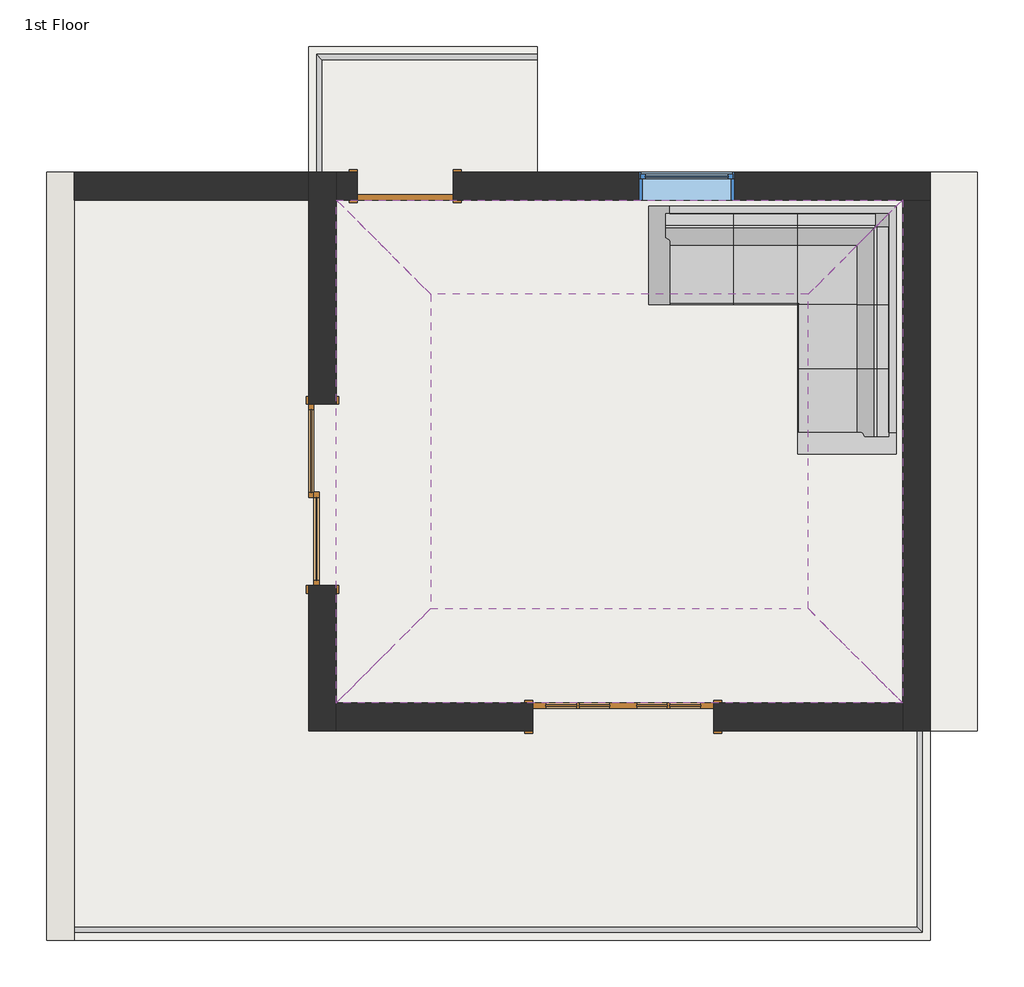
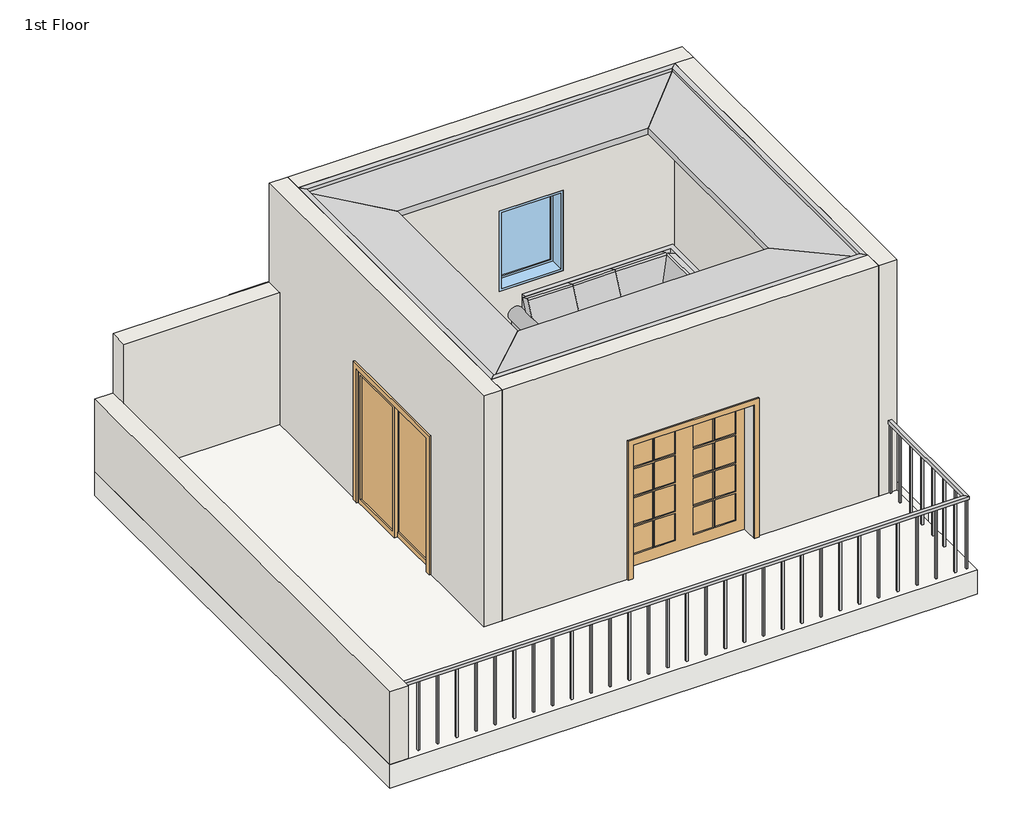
# One storey: 6 walls, 4 proxies, 3 doors, 2 railings, 2 slabs, 1 furniture element, 1 window.
"""IFC4 building model written with IfcOpenShell, lengths in millimetres."""

from ifc_helpers import new_model, si_unit, frame, origin, place, context, project, spatial, polyline, outline, extrude, faceted_brep, transform, mapped, element, save
from components import m_double_glass_2_1730_x_2032mm_0b333e25, m_single_flush_0915_x_2032mm_d69fe862, m_sliding_2_panel_1730_x_2032mm_289bf79d, corner_sofa_2406_corner_sofa_2406_fdd71140, m_fixed_0915_x_1220mm_db24ddbb

model = new_model("IFC4")

# Units and contexts
model_context = context("Model", 3, world=origin())
ifc_project = project(units=[si_unit("LENGTHUNIT", "METRE", prefix="MILLI")], contexts=[model_context])

# Site, building, storey
site = spatial("IfcSite", under=ifc_project)
building = spatial("IfcBuilding", under=site)
storey = spatial("IfcBuildingStorey", under=building, Name="1st Floor", Elevation=3000.0)

# Proxies
placement = place(None, origin())
element("IfcBuildingElementProxy", 1, Name="Wall Sweeps", at=placement, inside=storey, context=model_context, shape_type="Brep", body=[
    faceted_brep([(-4848.164818, -4853.3309608, 6500.0), (-4848.164818, -4853.3309608, 5750.0), (-4746.564818, -4751.7309608, 5750.0), (-4746.564818, -4751.7309608, 5800.8), (-4771.964818, -4777.1309608, 5800.8), (-4771.964818, -4777.1309608, 6054.8), (-4746.564818, -4751.7309608, 6054.8), (-4746.564818, -4751.7309608, 6105.6), (-4354.564818, -4359.7309608, 6246.0), (-4303.764818, -4308.9309608, 6246.0), (-4303.764818, -4308.9309608, 6271.4), (-4075.164818, -4080.3309608, 6271.4), (-4075.164818, -4080.3309608, 6296.8), (-3951.339818, -3956.5059608, 6296.8), (-3951.339818, -3956.5059608, 6283.2739674), (-3948.164818, -3953.3309608, 6283.2739674), (-3948.164818, -3953.3309608, 6373.0), (-4771.964818, -4777.1309608, 6449.2), (-4771.964818, -4777.1309608, 6500.0), (-4848.164818, -53.3309608, 6500.0), (-4771.964818, -129.5309608, 6500.0), (-4771.964818, -129.5309608, 6449.2), (-3948.164818, -953.3309608, 6373.0), (-3948.164818, -953.3309608, 6283.2739674), (-3951.339818, -950.1559608, 6283.2739674), (-3951.339818, -950.1559608, 6296.8), (-4075.164818, -826.3309608, 6296.8), (-4075.164818, -826.3309608, 6271.4), (-4303.764818, -597.7309608, 6271.4), (-4303.764818, -597.7309608, 6246.0), (-4354.564818, -546.9309608, 6246.0), (-4746.564818, -154.9309608, 6105.6), (-4746.564818, -154.9309608, 6054.8), (-4771.964818, -129.5309608, 6054.8), (-4771.964818, -129.5309608, 5800.8), (-4746.564818, -154.9309608, 5800.8), (-4746.564818, -154.9309608, 5750.0), (-4848.164818, -53.3309608, 5750.0)], [[[0, 1, 2, 3, 4, 5, 6, 7, 8, 9, 10, 11, 12, 13, 14, 15, 16, 17, 18]], [[19, 20, 21, 22, 23, 24, 25, 26, 27, 28, 29, 30, 31, 32, 33, 34, 35, 36, 37]], [[0, 18, 20, 19]], [[18, 17, 21, 20]], [[17, 16, 22, 21]], [[16, 15, 23, 22]], [[15, 14, 24, 23]], [[14, 13, 25, 24]], [[13, 12, 26, 25]], [[12, 11, 27, 26]], [[11, 10, 28, 27]], [[10, 9, 29, 28]], [[9, 8, 30, 29]], [[8, 7, 31, 30]], [[7, 6, 32, 31]], [[6, 5, 33, 32]], [[5, 4, 34, 33]], [[4, 3, 35, 34]], [[3, 2, 36, 35]], [[2, 1, 37, 36]], [[1, 0, 19, 37]]]),
])
element("IfcBuildingElementProxy", 2, Name="Wall Sweeps", at=placement, inside=storey, context=model_context, shape_type="Brep", body=[
    faceted_brep([(-4848.164818, -53.3309608, 6500.0), (-4848.164818, -53.3309608, 5750.0), (-4746.564818, -154.9309608, 5750.0), (-4746.564818, -154.9309608, 5800.8), (-4771.964818, -129.5309608, 5800.8), (-4771.964818, -129.5309608, 6054.8), (-4746.564818, -154.9309608, 6054.8), (-4746.564818, -154.9309608, 6105.6), (-4354.564818, -546.9309608, 6246.0), (-4303.764818, -597.7309608, 6246.0), (-4303.764818, -597.7309608, 6271.4), (-4075.164818, -826.3309608, 6271.4), (-4075.164818, -826.3309608, 6296.8), (-3951.339818, -950.1559608, 6296.8), (-3951.339818, -950.1559608, 6283.2739674), (-3948.164818, -953.3309608, 6283.2739674), (-3948.164818, -953.3309608, 6373.0), (-4771.964818, -129.5309608, 6449.2), (-4771.964818, -129.5309608, 6500.0), (551.835182, -53.3309608, 6500.0), (475.635182, -129.5309608, 6500.0), (475.635182, -129.5309608, 6449.2), (-348.164818, -953.3309608, 6373.0), (-348.164818, -953.3309608, 6283.2739674), (-344.989818, -950.1559608, 6283.2739674), (-344.989818, -950.1559608, 6296.8), (-221.164818, -826.3309608, 6296.8), (-221.164818, -826.3309608, 6271.4), (7.435182, -597.7309608, 6271.4), (7.435182, -597.7309608, 6246.0), (58.235182, -546.9309608, 6246.0), (450.235182, -154.9309608, 6105.6), (450.235182, -154.9309608, 6054.8), (475.635182, -129.5309608, 6054.8), (475.635182, -129.5309608, 5800.8), (450.235182, -154.9309608, 5800.8), (450.235182, -154.9309608, 5750.0), (551.835182, -53.3309608, 5750.0)], [[[0, 1, 2, 3, 4, 5, 6, 7, 8, 9, 10, 11, 12, 13, 14, 15, 16, 17, 18]], [[19, 20, 21, 22, 23, 24, 25, 26, 27, 28, 29, 30, 31, 32, 33, 34, 35, 36, 37]], [[1, 0, 19, 37]], [[2, 1, 37, 36]], [[3, 2, 36, 35]], [[4, 3, 35, 34]], [[5, 4, 34, 33]], [[6, 5, 33, 32]], [[7, 6, 32, 31]], [[8, 7, 31, 30]], [[9, 8, 30, 29]], [[10, 9, 29, 28]], [[11, 10, 28, 27]], [[12, 11, 27, 26]], [[13, 12, 26, 25]], [[14, 13, 25, 24]], [[15, 14, 24, 23]], [[16, 15, 23, 22]], [[17, 16, 22, 21]], [[18, 17, 21, 20]], [[0, 18, 20, 19]]]),
])
element("IfcBuildingElementProxy", 3, Name="Wall Sweeps", at=placement, inside=storey, context=model_context, shape_type="Brep", body=[
    faceted_brep([(551.835182, -53.3309608, 6500.0), (551.835182, -53.3309608, 5750.0), (450.235182, -154.9309608, 5750.0), (450.235182, -154.9309608, 5800.8), (475.635182, -129.5309608, 5800.8), (475.635182, -129.5309608, 6054.8), (450.235182, -154.9309608, 6054.8), (450.235182, -154.9309608, 6105.6), (58.235182, -546.9309608, 6246.0), (7.435182, -597.7309608, 6246.0), (7.435182, -597.7309608, 6271.4), (-221.164818, -826.3309608, 6271.4), (-221.164818, -826.3309608, 6296.8), (-344.989818, -950.1559608, 6296.8), (-344.989818, -950.1559608, 6283.2739674), (-348.164818, -953.3309608, 6283.2739674), (-348.164818, -953.3309608, 6373.0), (475.635182, -129.5309608, 6449.2), (475.635182, -129.5309608, 6500.0), (551.835182, -4853.3309608, 6500.0), (475.635182, -4777.1309608, 6500.0), (475.635182, -4777.1309608, 6449.2), (-348.164818, -3953.3309608, 6373.0), (-348.164818, -3953.3309608, 6283.2739674), (-344.989818, -3956.5059608, 6283.2739674), (-344.989818, -3956.5059608, 6296.8), (-221.164818, -4080.3309608, 6296.8), (-221.164818, -4080.3309608, 6271.4), (7.435182, -4308.9309608, 6271.4), (7.435182, -4308.9309608, 6246.0), (58.235182, -4359.7309608, 6246.0), (450.235182, -4751.7309608, 6105.6), (450.235182, -4751.7309608, 6054.8), (475.635182, -4777.1309608, 6054.8), (475.635182, -4777.1309608, 5800.8), (450.235182, -4751.7309608, 5800.8), (450.235182, -4751.7309608, 5750.0), (551.835182, -4853.3309608, 5750.0)], [[[0, 1, 2, 3, 4, 5, 6, 7, 8, 9, 10, 11, 12, 13, 14, 15, 16, 17, 18]], [[19, 20, 21, 22, 23, 24, 25, 26, 27, 28, 29, 30, 31, 32, 33, 34, 35, 36, 37]], [[1, 0, 19, 37]], [[2, 1, 37, 36]], [[3, 2, 36, 35]], [[4, 3, 35, 34]], [[5, 4, 34, 33]], [[6, 5, 33, 32]], [[7, 6, 32, 31]], [[8, 7, 31, 30]], [[9, 8, 30, 29]], [[10, 9, 29, 28]], [[11, 10, 28, 27]], [[12, 11, 27, 26]], [[13, 12, 26, 25]], [[14, 13, 25, 24]], [[15, 14, 24, 23]], [[16, 15, 23, 22]], [[17, 16, 22, 21]], [[18, 17, 21, 20]], [[0, 18, 20, 19]]]),
])
element("IfcBuildingElementProxy", 4, Name="Wall Sweeps", at=placement, inside=storey, context=model_context, shape_type="Brep", body=[
    faceted_brep([(551.835182, -4853.3309608, 6500.0), (551.835182, -4853.3309608, 5750.0), (450.235182, -4751.7309608, 5750.0), (450.235182, -4751.7309608, 5800.8), (475.635182, -4777.1309608, 5800.8), (475.635182, -4777.1309608, 6054.8), (450.235182, -4751.7309608, 6054.8), (450.235182, -4751.7309608, 6105.6), (58.235182, -4359.7309608, 6246.0), (7.435182, -4308.9309608, 6246.0), (7.435182, -4308.9309608, 6271.4), (-221.164818, -4080.3309608, 6271.4), (-221.164818, -4080.3309608, 6296.8), (-344.989818, -3956.5059608, 6296.8), (-344.989818, -3956.5059608, 6283.2739674), (-348.164818, -3953.3309608, 6283.2739674), (-348.164818, -3953.3309608, 6373.0), (475.635182, -4777.1309608, 6449.2), (475.635182, -4777.1309608, 6500.0), (-4848.164818, -4853.3309608, 6500.0), (-4771.964818, -4777.1309608, 6500.0), (-4771.964818, -4777.1309608, 6449.2), (-3948.164818, -3953.3309608, 6373.0), (-3948.164818, -3953.3309608, 6283.2739674), (-3951.339818, -3956.5059608, 6283.2739674), (-3951.339818, -3956.5059608, 6296.8), (-4075.164818, -4080.3309608, 6296.8), (-4075.164818, -4080.3309608, 6271.4), (-4303.764818, -4308.9309608, 6271.4), (-4303.764818, -4308.9309608, 6246.0), (-4354.564818, -4359.7309608, 6246.0), (-4746.564818, -4751.7309608, 6105.6), (-4746.564818, -4751.7309608, 6054.8), (-4771.964818, -4777.1309608, 6054.8), (-4771.964818, -4777.1309608, 5800.8), (-4746.564818, -4751.7309608, 5800.8), (-4746.564818, -4751.7309608, 5750.0), (-4848.164818, -4853.3309608, 5750.0)], [[[0, 1, 2, 3, 4, 5, 6, 7, 8, 9, 10, 11, 12, 13, 14, 15, 16, 17, 18]], [[19, 20, 21, 22, 23, 24, 25, 26, 27, 28, 29, 30, 31, 32, 33, 34, 35, 36, 37]], [[1, 0, 19, 37]], [[2, 1, 37, 36]], [[3, 2, 36, 35]], [[4, 3, 35, 34]], [[5, 4, 34, 33]], [[6, 5, 33, 32]], [[7, 6, 32, 31]], [[8, 7, 31, 30]], [[9, 8, 30, 29]], [[10, 9, 29, 28]], [[11, 10, 28, 27]], [[12, 11, 27, 26]], [[13, 12, 26, 25]], [[14, 13, 25, 24]], [[15, 14, 24, 23]], [[16, 15, 23, 22]], [[17, 16, 22, 21]], [[18, 17, 21, 20]], [[0, 18, 20, 19]]]),
])

# Doors
m_double_glass_2_1730_x_2032mm_shape = m_double_glass_2_1730_x_2032mm_0b333e25(model_context)
element("IfcDoor", 5, ObjectType="M_Double-Glass 2 : 1730 x 2032mm", at=placement, inside=storey, context=model_context, shape_type="MappedRepresentation", body=[
    mapped(m_double_glass_2_1730_x_2032mm_shape, transform((-2112.164818, -4985.3309608, 3000.0), x_axis=(1.0, 0.0, 0.0), y_axis=(0.0, 1.0, 0.0), z_axis=(0.0, 0.0, 1.0))),
])
m_single_flush_0915_x_2032mm_shape = m_single_flush_0915_x_2032mm_d69fe862(model_context)
element("IfcDoor", 6, ObjectType="M_Single-Flush : 0915 x 2032mm", at=placement, inside=storey, context=model_context, shape_type="MappedRepresentation", body=[
    mapped(m_single_flush_0915_x_2032mm_shape, transform((-4190.664818, 78.6690392, 3000.0), x_axis=(-1.0, 0.0, 0.0), y_axis=(0.0, -1.0, 0.0), z_axis=(0.0, 0.0, 1.0))),
])
m_sliding_2_panel_1730_x_2032mm_shape = m_sliding_2_panel_1730_x_2032mm_289bf79d(model_context)
element("IfcDoor", 7, ObjectType="M_Sliding-2 Panel : 1730 x 2032mm", at=placement, inside=storey, context=model_context, shape_type="MappedRepresentation", body=[
    mapped(m_sliding_2_panel_1730_x_2032mm_shape, transform((-4853.164818, -2867.3309608, 3000.0), x_axis=(0.0, -1.0, 0.0), y_axis=(1.0, 0.0, 0.0), z_axis=(0.0, 0.0, 1.0))),
])

# Furniture
corner_sofa_2406_corner_sofa_2406_shape = corner_sofa_2406_corner_sofa_2406_fdd71140(model_context)
element("IfcFurniture", 8, ObjectType="Corner_Sofa_2406 : Corner_Sofa_2406", at=placement, inside=storey, context=model_context, shape_type="MappedRepresentation", body=[
    mapped(corner_sofa_2406_corner_sofa_2406_shape, transform((-588.164818, -113.3309608, 3000.0), x_axis=(1.0, 0.0, 0.0), y_axis=(0.0, 1.0, 0.0), z_axis=(0.0, 0.0, 1.0))),
])

# Railings
element("IfcRailing", 9, ObjectType="1100mm", at=placement, inside=storey, context=model_context, shape_type="SolidModel", body=[
    faceted_brep([(-7420.164818, -6992.3309608, 4100.0), (-7420.164818, -6992.3309608, 4050.0), (-7420.164818, -7042.3309608, 4050.0), (-7420.164818, -7042.3309608, 4100.0), (690.835182, -6992.3309608, 4100.0), (690.835182, -6992.3309608, 4050.0), (740.835182, -7042.3309608, 4050.0), (740.835182, -7042.3309608, 4100.0), (690.835182, -5117.3309608, 4100.0), (740.835182, -5117.3309608, 4100.0), (740.835182, -5117.3309608, 4050.0), (690.835182, -5117.3309608, 4050.0)], [[[0, 1, 2, 3]], [[1, 0, 4, 5]], [[2, 1, 5, 6]], [[3, 2, 6, 7]], [[0, 3, 7, 4]], [[8, 9, 10, 11]], [[5, 4, 8, 11]], [[6, 5, 11, 10]], [[7, 6, 10, 9]], [[4, 7, 9, 8]]]),
    extrude(outline(polyline([(728.335182, -5379.8309608), (703.335182, -5379.8309608), (703.335182, -5354.8309608), (728.335182, -5354.8309608), (728.335182, -5379.8309608)])), frame((0.0, 0.0, 3000.0), z_axis=(0.0, 0.0, 1.0), x_axis=(1.0, 0.0, 0.0)), (0.0, 0.0, 1.0), 1050.0),
    extrude(outline(polyline([(728.335182, -5654.8309608), (703.335182, -5654.8309608), (703.335182, -5629.8309608), (728.335182, -5629.8309608), (728.335182, -5654.8309608)])), frame((0.0, 0.0, 3000.0), z_axis=(0.0, 0.0, 1.0), x_axis=(1.0, 0.0, 0.0)), (0.0, 0.0, 1.0), 1050.0),
    extrude(outline(polyline([(728.335182, -5929.8309608), (703.335182, -5929.8309608), (703.335182, -5904.8309608), (728.335182, -5904.8309608), (728.335182, -5929.8309608)])), frame((0.0, 0.0, 3000.0), z_axis=(0.0, 0.0, 1.0), x_axis=(1.0, 0.0, 0.0)), (0.0, 0.0, 1.0), 1050.0),
    extrude(outline(polyline([(728.335182, -6204.8309608), (703.335182, -6204.8309608), (703.335182, -6179.8309608), (728.335182, -6179.8309608), (728.335182, -6204.8309608)])), frame((0.0, 0.0, 3000.0), z_axis=(0.0, 0.0, 1.0), x_axis=(1.0, 0.0, 0.0)), (0.0, 0.0, 1.0), 1050.0),
    extrude(outline(polyline([(728.335182, -6479.8309608), (703.335182, -6479.8309608), (703.335182, -6454.8309608), (728.335182, -6454.8309608), (728.335182, -6479.8309608)])), frame((0.0, 0.0, 3000.0), z_axis=(0.0, 0.0, 1.0), x_axis=(1.0, 0.0, 0.0)), (0.0, 0.0, 1.0), 1050.0),
    extrude(outline(polyline([(728.335182, -6754.8309608), (703.335182, -6754.8309608), (703.335182, -6729.8309608), (728.335182, -6729.8309608), (728.335182, -6754.8309608)])), frame((0.0, 0.0, 3000.0), z_axis=(0.0, 0.0, 1.0), x_axis=(1.0, 0.0, 0.0)), (0.0, 0.0, 1.0), 1050.0),
    extrude(outline(polyline([(542.335182, -7029.8309608), (542.335182, -7004.8309608), (567.335182, -7004.8309608), (567.335182, -7029.8309608), (542.335182, -7029.8309608)])), frame((0.0, 0.0, 3000.0), z_axis=(0.0, 0.0, 1.0), x_axis=(1.0, 0.0, 0.0)), (0.0, 0.0, 1.0), 1050.0),
    extrude(outline(polyline([(267.335182, -7029.8309608), (267.335182, -7004.8309608), (292.335182, -7004.8309608), (292.335182, -7029.8309608), (267.335182, -7029.8309608)])), frame((0.0, 0.0, 3000.0), z_axis=(0.0, 0.0, 1.0), x_axis=(1.0, 0.0, 0.0)), (0.0, 0.0, 1.0), 1050.0),
    extrude(outline(polyline([(-7.664818, -7029.8309608), (-7.664818, -7004.8309608), (17.335182, -7004.8309608), (17.335182, -7029.8309608), (-7.664818, -7029.8309608)])), frame((0.0, 0.0, 3000.0), z_axis=(0.0, 0.0, 1.0), x_axis=(1.0, 0.0, 0.0)), (0.0, 0.0, 1.0), 1050.0),
    extrude(outline(polyline([(-282.664818, -7029.8309608), (-282.664818, -7004.8309608), (-257.664818, -7004.8309608), (-257.664818, -7029.8309608), (-282.664818, -7029.8309608)])), frame((0.0, 0.0, 3000.0), z_axis=(0.0, 0.0, 1.0), x_axis=(1.0, 0.0, 0.0)), (0.0, 0.0, 1.0), 1050.0),
    extrude(outline(polyline([(-557.664818, -7029.8309608), (-557.664818, -7004.8309608), (-532.664818, -7004.8309608), (-532.664818, -7029.8309608), (-557.664818, -7029.8309608)])), frame((0.0, 0.0, 3000.0), z_axis=(0.0, 0.0, 1.0), x_axis=(1.0, 0.0, 0.0)), (0.0, 0.0, 1.0), 1050.0),
    extrude(outline(polyline([(-832.664818, -7029.8309608), (-832.664818, -7004.8309608), (-807.664818, -7004.8309608), (-807.664818, -7029.8309608), (-832.664818, -7029.8309608)])), frame((0.0, 0.0, 3000.0), z_axis=(0.0, 0.0, 1.0), x_axis=(1.0, 0.0, 0.0)), (0.0, 0.0, 1.0), 1050.0),
    extrude(outline(polyline([(-1107.664818, -7029.8309608), (-1107.664818, -7004.8309608), (-1082.664818, -7004.8309608), (-1082.664818, -7029.8309608), (-1107.664818, -7029.8309608)])), frame((0.0, 0.0, 3000.0), z_axis=(0.0, 0.0, 1.0), x_axis=(1.0, 0.0, 0.0)), (0.0, 0.0, 1.0), 1050.0),
    extrude(outline(polyline([(-1382.664818, -7029.8309608), (-1382.664818, -7004.8309608), (-1357.664818, -7004.8309608), (-1357.664818, -7029.8309608), (-1382.664818, -7029.8309608)])), frame((0.0, 0.0, 3000.0), z_axis=(0.0, 0.0, 1.0), x_axis=(1.0, 0.0, 0.0)), (0.0, 0.0, 1.0), 1050.0),
    extrude(outline(polyline([(-1657.664818, -7029.8309608), (-1657.664818, -7004.8309608), (-1632.664818, -7004.8309608), (-1632.664818, -7029.8309608), (-1657.664818, -7029.8309608)])), frame((0.0, 0.0, 3000.0), z_axis=(0.0, 0.0, 1.0), x_axis=(1.0, 0.0, 0.0)), (0.0, 0.0, 1.0), 1050.0),
    extrude(outline(polyline([(-1932.664818, -7029.8309608), (-1932.664818, -7004.8309608), (-1907.664818, -7004.8309608), (-1907.664818, -7029.8309608), (-1932.664818, -7029.8309608)])), frame((0.0, 0.0, 3000.0), z_axis=(0.0, 0.0, 1.0), x_axis=(1.0, 0.0, 0.0)), (0.0, 0.0, 1.0), 1050.0),
    extrude(outline(polyline([(-2207.664818, -7029.8309608), (-2207.664818, -7004.8309608), (-2182.664818, -7004.8309608), (-2182.664818, -7029.8309608), (-2207.664818, -7029.8309608)])), frame((0.0, 0.0, 3000.0), z_axis=(0.0, 0.0, 1.0), x_axis=(1.0, 0.0, 0.0)), (0.0, 0.0, 1.0), 1050.0),
    extrude(outline(polyline([(-2482.664818, -7029.8309608), (-2482.664818, -7004.8309608), (-2457.664818, -7004.8309608), (-2457.664818, -7029.8309608), (-2482.664818, -7029.8309608)])), frame((0.0, 0.0, 3000.0), z_axis=(0.0, 0.0, 1.0), x_axis=(1.0, 0.0, 0.0)), (0.0, 0.0, 1.0), 1050.0),
    extrude(outline(polyline([(-2757.664818, -7029.8309608), (-2757.664818, -7004.8309608), (-2732.664818, -7004.8309608), (-2732.664818, -7029.8309608), (-2757.664818, -7029.8309608)])), frame((0.0, 0.0, 3000.0), z_axis=(0.0, 0.0, 1.0), x_axis=(1.0, 0.0, 0.0)), (0.0, 0.0, 1.0), 1050.0),
    extrude(outline(polyline([(-3032.664818, -7029.8309608), (-3032.664818, -7004.8309608), (-3007.664818, -7004.8309608), (-3007.664818, -7029.8309608), (-3032.664818, -7029.8309608)])), frame((0.0, 0.0, 3000.0), z_axis=(0.0, 0.0, 1.0), x_axis=(1.0, 0.0, 0.0)), (0.0, 0.0, 1.0), 1050.0),
    extrude(outline(polyline([(-3307.664818, -7029.8309608), (-3307.664818, -7004.8309608), (-3282.664818, -7004.8309608), (-3282.664818, -7029.8309608), (-3307.664818, -7029.8309608)])), frame((0.0, 0.0, 3000.0), z_axis=(0.0, 0.0, 1.0), x_axis=(1.0, 0.0, 0.0)), (0.0, 0.0, 1.0), 1050.0),
    extrude(outline(polyline([(-3582.664818, -7029.8309608), (-3582.664818, -7004.8309608), (-3557.664818, -7004.8309608), (-3557.664818, -7029.8309608), (-3582.664818, -7029.8309608)])), frame((0.0, 0.0, 3000.0), z_axis=(0.0, 0.0, 1.0), x_axis=(1.0, 0.0, 0.0)), (0.0, 0.0, 1.0), 1050.0),
    extrude(outline(polyline([(-3857.664818, -7029.8309608), (-3857.664818, -7004.8309608), (-3832.664818, -7004.8309608), (-3832.664818, -7029.8309608), (-3857.664818, -7029.8309608)])), frame((0.0, 0.0, 3000.0), z_axis=(0.0, 0.0, 1.0), x_axis=(1.0, 0.0, 0.0)), (0.0, 0.0, 1.0), 1050.0),
    extrude(outline(polyline([(-4132.664818, -7029.8309608), (-4132.664818, -7004.8309608), (-4107.664818, -7004.8309608), (-4107.664818, -7029.8309608), (-4132.664818, -7029.8309608)])), frame((0.0, 0.0, 3000.0), z_axis=(0.0, 0.0, 1.0), x_axis=(1.0, 0.0, 0.0)), (0.0, 0.0, 1.0), 1050.0),
    extrude(outline(polyline([(-4407.664818, -7029.8309608), (-4407.664818, -7004.8309608), (-4382.664818, -7004.8309608), (-4382.664818, -7029.8309608), (-4407.664818, -7029.8309608)])), frame((0.0, 0.0, 3000.0), z_axis=(0.0, 0.0, 1.0), x_axis=(1.0, 0.0, 0.0)), (0.0, 0.0, 1.0), 1050.0),
    extrude(outline(polyline([(-4682.664818, -7029.8309608), (-4682.664818, -7004.8309608), (-4657.664818, -7004.8309608), (-4657.664818, -7029.8309608), (-4682.664818, -7029.8309608)])), frame((0.0, 0.0, 3000.0), z_axis=(0.0, 0.0, 1.0), x_axis=(1.0, 0.0, 0.0)), (0.0, 0.0, 1.0), 1050.0),
    extrude(outline(polyline([(-4957.664818, -7029.8309608), (-4957.664818, -7004.8309608), (-4932.664818, -7004.8309608), (-4932.664818, -7029.8309608), (-4957.664818, -7029.8309608)])), frame((0.0, 0.0, 3000.0), z_axis=(0.0, 0.0, 1.0), x_axis=(1.0, 0.0, 0.0)), (0.0, 0.0, 1.0), 1050.0),
    extrude(outline(polyline([(-5232.664818, -7029.8309608), (-5232.664818, -7004.8309608), (-5207.664818, -7004.8309608), (-5207.664818, -7029.8309608), (-5232.664818, -7029.8309608)])), frame((0.0, 0.0, 3000.0), z_axis=(0.0, 0.0, 1.0), x_axis=(1.0, 0.0, 0.0)), (0.0, 0.0, 1.0), 1050.0),
    extrude(outline(polyline([(-5507.664818, -7029.8309608), (-5507.664818, -7004.8309608), (-5482.664818, -7004.8309608), (-5482.664818, -7029.8309608), (-5507.664818, -7029.8309608)])), frame((0.0, 0.0, 3000.0), z_axis=(0.0, 0.0, 1.0), x_axis=(1.0, 0.0, 0.0)), (0.0, 0.0, 1.0), 1050.0),
    extrude(outline(polyline([(-5782.664818, -7029.8309608), (-5782.664818, -7004.8309608), (-5757.664818, -7004.8309608), (-5757.664818, -7029.8309608), (-5782.664818, -7029.8309608)])), frame((0.0, 0.0, 3000.0), z_axis=(0.0, 0.0, 1.0), x_axis=(1.0, 0.0, 0.0)), (0.0, 0.0, 1.0), 1050.0),
    extrude(outline(polyline([(-6057.664818, -7029.8309608), (-6057.664818, -7004.8309608), (-6032.664818, -7004.8309608), (-6032.664818, -7029.8309608), (-6057.664818, -7029.8309608)])), frame((0.0, 0.0, 3000.0), z_axis=(0.0, 0.0, 1.0), x_axis=(1.0, 0.0, 0.0)), (0.0, 0.0, 1.0), 1050.0),
    extrude(outline(polyline([(-6332.664818, -7029.8309608), (-6332.664818, -7004.8309608), (-6307.664818, -7004.8309608), (-6307.664818, -7029.8309608), (-6332.664818, -7029.8309608)])), frame((0.0, 0.0, 3000.0), z_axis=(0.0, 0.0, 1.0), x_axis=(1.0, 0.0, 0.0)), (0.0, 0.0, 1.0), 1050.0),
    extrude(outline(polyline([(-6607.664818, -7029.8309608), (-6607.664818, -7004.8309608), (-6582.664818, -7004.8309608), (-6582.664818, -7029.8309608), (-6607.664818, -7029.8309608)])), frame((0.0, 0.0, 3000.0), z_axis=(0.0, 0.0, 1.0), x_axis=(1.0, 0.0, 0.0)), (0.0, 0.0, 1.0), 1050.0),
    extrude(outline(polyline([(-6882.664818, -7029.8309608), (-6882.664818, -7004.8309608), (-6857.664818, -7004.8309608), (-6857.664818, -7029.8309608), (-6882.664818, -7029.8309608)])), frame((0.0, 0.0, 3000.0), z_axis=(0.0, 0.0, 1.0), x_axis=(1.0, 0.0, 0.0)), (0.0, 0.0, 1.0), 1050.0),
    extrude(outline(polyline([(-7157.664818, -7029.8309608), (-7157.664818, -7004.8309608), (-7132.664818, -7004.8309608), (-7132.664818, -7029.8309608), (-7157.664818, -7029.8309608)])), frame((0.0, 0.0, 3000.0), z_axis=(0.0, 0.0, 1.0), x_axis=(1.0, 0.0, 0.0)), (0.0, 0.0, 1.0), 1050.0),
    extrude(outline(polyline([(703.335182, -7029.8309608), (703.335182, -7004.8309608), (728.335182, -7004.8309608), (728.335182, -7029.8309608), (703.335182, -7029.8309608)])), frame((0.0, 0.0, 3000.0), z_axis=(0.0, 0.0, 1.0), x_axis=(1.0, 0.0, 0.0)), (0.0, 0.0, 1.0), 1050.0),
    extrude(outline(polyline([(728.335182, -5142.3309608), (703.335182, -5142.3309608), (703.335182, -5117.3309608), (728.335182, -5117.3309608), (728.335182, -5142.3309608)])), frame((0.0, 0.0, 3000.0), z_axis=(0.0, 0.0, 1.0), x_axis=(1.0, 0.0, 0.0)), (0.0, 0.0, 1.0), 1050.0),
    extrude(outline(polyline([(-7420.164818, -7029.8309608), (-7420.164818, -7004.8309608), (-7395.164818, -7004.8309608), (-7395.164818, -7029.8309608), (-7420.164818, -7029.8309608)])), frame((0.0, 0.0, 3000.0), z_axis=(0.0, 0.0, 1.0), x_axis=(1.0, 0.0, 0.0)), (0.0, 0.0, 1.0), 1050.0),
])
element("IfcRailing", 10, ObjectType="1100mm", at=placement, inside=storey, context=model_context, shape_type="SolidModel", body=[
    faceted_brep([(-2934.164818, 1285.6690392, 4100.0), (-2934.164818, 1285.6690392, 4050.0), (-2934.164818, 1335.6690392, 4050.0), (-2934.164818, 1335.6690392, 4100.0), (-4987.164818, 1285.6690392, 4100.0), (-4987.164818, 1285.6690392, 4050.0), (-5037.164818, 1335.6690392, 4050.0), (-5037.164818, 1335.6690392, 4100.0), (-4987.164818, 210.6690392, 4100.0), (-5037.164818, 210.6690392, 4100.0), (-5037.164818, 210.6690392, 4050.0), (-4987.164818, 210.6690392, 4050.0)], [[[0, 1, 2, 3]], [[1, 0, 4, 5]], [[2, 1, 5, 6]], [[3, 2, 6, 7]], [[0, 3, 7, 4]], [[8, 9, 10, 11]], [[5, 4, 8, 11]], [[6, 5, 11, 10]], [[7, 6, 10, 9]], [[4, 7, 9, 8]]]),
    extrude(outline(polyline([(-5024.664818, 498.1690392), (-4999.664818, 498.1690392), (-4999.664818, 473.1690392), (-5024.664818, 473.1690392), (-5024.664818, 498.1690392)])), frame((0.0, 0.0, 3000.0), z_axis=(0.0, 0.0, 1.0), x_axis=(1.0, 0.0, 0.0)), (0.0, 0.0, 1.0), 1050.0),
    extrude(outline(polyline([(-5024.664818, 773.1690392), (-4999.664818, 773.1690392), (-4999.664818, 748.1690392), (-5024.664818, 748.1690392), (-5024.664818, 773.1690392)])), frame((0.0, 0.0, 3000.0), z_axis=(0.0, 0.0, 1.0), x_axis=(1.0, 0.0, 0.0)), (0.0, 0.0, 1.0), 1050.0),
    extrude(outline(polyline([(-5024.664818, 1048.1690392), (-4999.664818, 1048.1690392), (-4999.664818, 1023.1690392), (-5024.664818, 1023.1690392), (-5024.664818, 1048.1690392)])), frame((0.0, 0.0, 3000.0), z_axis=(0.0, 0.0, 1.0), x_axis=(1.0, 0.0, 0.0)), (0.0, 0.0, 1.0), 1050.0),
    extrude(outline(polyline([(-4846.664818, 1323.1690392), (-4846.664818, 1298.1690392), (-4871.664818, 1298.1690392), (-4871.664818, 1323.1690392), (-4846.664818, 1323.1690392)])), frame((0.0, 0.0, 3000.0), z_axis=(0.0, 0.0, 1.0), x_axis=(1.0, 0.0, 0.0)), (0.0, 0.0, 1.0), 1050.0),
    extrude(outline(polyline([(-4571.664818, 1323.1690392), (-4571.664818, 1298.1690392), (-4596.664818, 1298.1690392), (-4596.664818, 1323.1690392), (-4571.664818, 1323.1690392)])), frame((0.0, 0.0, 3000.0), z_axis=(0.0, 0.0, 1.0), x_axis=(1.0, 0.0, 0.0)), (0.0, 0.0, 1.0), 1050.0),
    extrude(outline(polyline([(-4296.664818, 1323.1690392), (-4296.664818, 1298.1690392), (-4321.664818, 1298.1690392), (-4321.664818, 1323.1690392), (-4296.664818, 1323.1690392)])), frame((0.0, 0.0, 3000.0), z_axis=(0.0, 0.0, 1.0), x_axis=(1.0, 0.0, 0.0)), (0.0, 0.0, 1.0), 1050.0),
    extrude(outline(polyline([(-4021.664818, 1323.1690392), (-4021.664818, 1298.1690392), (-4046.664818, 1298.1690392), (-4046.664818, 1323.1690392), (-4021.664818, 1323.1690392)])), frame((0.0, 0.0, 3000.0), z_axis=(0.0, 0.0, 1.0), x_axis=(1.0, 0.0, 0.0)), (0.0, 0.0, 1.0), 1050.0),
    extrude(outline(polyline([(-3746.664818, 1323.1690392), (-3746.664818, 1298.1690392), (-3771.664818, 1298.1690392), (-3771.664818, 1323.1690392), (-3746.664818, 1323.1690392)])), frame((0.0, 0.0, 3000.0), z_axis=(0.0, 0.0, 1.0), x_axis=(1.0, 0.0, 0.0)), (0.0, 0.0, 1.0), 1050.0),
    extrude(outline(polyline([(-3471.664818, 1323.1690392), (-3471.664818, 1298.1690392), (-3496.664818, 1298.1690392), (-3496.664818, 1323.1690392), (-3471.664818, 1323.1690392)])), frame((0.0, 0.0, 3000.0), z_axis=(0.0, 0.0, 1.0), x_axis=(1.0, 0.0, 0.0)), (0.0, 0.0, 1.0), 1050.0),
    extrude(outline(polyline([(-3196.664818, 1323.1690392), (-3196.664818, 1298.1690392), (-3221.664818, 1298.1690392), (-3221.664818, 1323.1690392), (-3196.664818, 1323.1690392)])), frame((0.0, 0.0, 3000.0), z_axis=(0.0, 0.0, 1.0), x_axis=(1.0, 0.0, 0.0)), (0.0, 0.0, 1.0), 1050.0),
    extrude(outline(polyline([(-4999.664818, 1323.1690392), (-4999.664818, 1298.1690392), (-5024.664818, 1298.1690392), (-5024.664818, 1323.1690392), (-4999.664818, 1323.1690392)])), frame((0.0, 0.0, 3000.0), z_axis=(0.0, 0.0, 1.0), x_axis=(1.0, 0.0, 0.0)), (0.0, 0.0, 1.0), 1050.0),
    extrude(outline(polyline([(-5024.664818, 235.6690392), (-4999.664818, 235.6690392), (-4999.664818, 210.6690392), (-5024.664818, 210.6690392), (-5024.664818, 235.6690392)])), frame((0.0, 0.0, 3000.0), z_axis=(0.0, 0.0, 1.0), x_axis=(1.0, 0.0, 0.0)), (0.0, 0.0, 1.0), 1050.0),
    extrude(outline(polyline([(-2934.164818, 1323.1690392), (-2934.164818, 1298.1690392), (-2959.164818, 1298.1690392), (-2959.164818, 1323.1690392), (-2934.164818, 1323.1690392)])), frame((0.0, 0.0, 3000.0), z_axis=(0.0, 0.0, 1.0), x_axis=(1.0, 0.0, 0.0)), (0.0, 0.0, 1.0), 1050.0),
])

# Slabs
element("IfcSlab", 11, ObjectType="Beam and Block 200mm", at=placement, inside=storey, context=model_context, shape_type="SweptSolid", body=[
    extrude(outline(polyline([(815.835182, 210.6690392), (1265.835182, 210.6690392), (1265.835182, -5117.3309608), (815.835182, -5117.3309608), (815.835182, 210.6690392)])), frame((0.0, 0.0, 2300.0), z_axis=(0.0, 0.0, 1.0), x_axis=(1.0, 0.0, 0.0)), (0.0, 0.0, 1.0), 200.0),
])
element("IfcSlab", 12, ObjectType="Concrete-Commercial 362mm", at=placement, inside=storey, context=model_context, shape_type="Brep", body=[
    faceted_brep([(-5112.164818, 210.6690392, 2638.0), (-5112.164818, 1410.6690392, 2638.0), (-2934.164818, 1410.6690392, 2638.0), (-2934.164818, 210.6690392, 2638.0), (515.835182, 210.6690392, 2638.0), (815.835182, 210.6690392, 2638.0), (815.835182, -89.3309608, 2638.0), (815.835182, -6817.3309608, 2638.0), (815.835182, -7117.3309608, 2638.0), (515.835182, -7117.3309608, 2638.0), (-7312.164818, -7117.3309608, 2638.0), (-7612.164818, -7117.3309608, 2638.0), (-7612.164818, -6817.3309608, 2638.0), (-7612.164818, -89.3309608, 2638.0), (-7612.164818, 210.6690392, 2638.0), (-7312.164818, 210.6690392, 2638.0), (-5112.164818, 210.6690392, 3000.0), (-7612.164818, 210.6690392, 3000.0), (-7612.164818, -7117.3309608, 3000.0), (815.835182, -7117.3309608, 3000.0), (815.835182, 210.6690392, 3000.0), (-2934.164818, 210.6690392, 3000.0), (-2934.164818, 1410.6690392, 3000.0), (-5112.164818, 1410.6690392, 3000.0)], [[[0, 1, 2, 3, 4, 5, 6, 7, 8, 9, 10, 11, 12, 13, 14, 15]], [[16, 17, 18, 19, 20, 21, 22, 23]], [[8, 7, 6, 5, 20, 19]], [[11, 10, 9, 8, 19, 18]], [[14, 13, 12, 11, 18, 17]], [[0, 15, 14, 17, 16]], [[1, 0, 16, 23]], [[2, 1, 23, 22]], [[3, 2, 22, 21]], [[5, 4, 3, 21, 20]]]),
])

# Walls
element("IfcWall", 13, ObjectType="CW 102-50-100p  W Cornice", at=placement, inside=storey, context=model_context, shape_type="Brep", body=[
    faceted_brep([(-4848.164818, 210.6690392, 6500.0), (-4848.164818, -53.3309608, 6500.0), (-4848.164818, -4853.3309608, 6500.0), (-4848.164818, -5117.3309608, 6500.0), (-4848.164818, -5117.3309608, 3000.0), (-4848.164818, -4853.3309608, 3000.0), (-4848.164818, -3732.3309608, 3000.0), (-4848.164818, -3732.3309608, 5032.0), (-4848.164818, -2002.3309608, 5032.0), (-4848.164818, -2002.3309608, 3000.0), (-4848.164818, -53.3309608, 3000.0), (-4848.164818, 210.6690392, 3000.0), (-5112.164818, -5117.3309608, 6500.0), (-5112.164818, 210.6690392, 6500.0), (-5112.164818, 210.6690392, 5000.0), (-5112.164818, 210.6690392, 3000.0), (-5112.164818, -53.3309608, 3000.0), (-5112.164818, -2002.3309608, 3000.0), (-5112.164818, -2002.3309608, 5032.0), (-5112.164818, -3732.3309608, 5032.0), (-5112.164818, -3732.3309608, 3000.0), (-5112.164818, -5117.3309608, 3000.0)], [[[0, 1, 2, 3, 4, 5, 6, 7, 8, 9, 10, 11]], [[12, 13, 14, 15, 16, 17, 18, 19, 20, 21]], [[15, 11, 10, 9, 17, 16]], [[4, 21, 20, 6, 5]], [[3, 2, 1, 0, 13, 12]], [[4, 3, 12, 21]], [[11, 15, 14, 13, 0]], [[19, 7, 6, 20]], [[8, 18, 17, 9]], [[18, 8, 7, 19]]]),
])
element("IfcWall", 14, ObjectType="CW 102-50-100p  W Cornice", at=placement, inside=storey, context=model_context, shape_type="Brep", body=[
    faceted_brep([(-4848.164818, -53.3309608, 3000.0), (-4648.164818, -53.3309608, 3000.0), (-4648.164818, -53.3309608, 5032.0), (-3733.164818, -53.3309608, 5032.0), (-3733.164818, -53.3309608, 3000.0), (551.835182, -53.3309608, 3000.0), (815.835182, -53.3309608, 3000.0), (815.835182, -53.3309608, 6500.0), (551.835182, -53.3309608, 6500.0), (-4848.164818, -53.3309608, 6500.0), (-1048.164818, -53.3309608, 3915.0), (-1963.164818, -53.3309608, 3915.0), (-1963.164818, -53.3309608, 5135.0), (-1048.164818, -53.3309608, 5135.0), (-4648.164818, 210.6690392, 5032.0), (-4648.164818, 210.6690392, 3000.0), (-4848.164818, 210.6690392, 3000.0), (-4848.164818, 210.6690392, 6500.0), (815.835182, 210.6690392, 6500.0), (815.835182, 210.6690392, 3000.0), (-3733.164818, 210.6690392, 3000.0), (-3733.164818, 210.6690392, 5032.0), (-1048.164818, 210.6690392, 3915.0), (-1048.164818, 210.6690392, 5135.0), (-1963.164818, 210.6690392, 5135.0), (-1963.164818, 210.6690392, 3915.0)], [[[0, 1, 2, 3, 4, 5, 6, 7, 8, 9], [10, 11, 12, 13]], [[14, 15, 16, 17, 18, 19, 20, 21], [22, 23, 24, 25]], [[20, 19, 6, 5, 4]], [[16, 15, 1, 0]], [[9, 8, 7, 18, 17]], [[7, 6, 19, 18]], [[9, 17, 16, 0]], [[2, 1, 15, 14]], [[3, 2, 14, 21]], [[4, 3, 21, 20]], [[23, 22, 10, 13]], [[24, 23, 13, 12]], [[25, 24, 12, 11]], [[22, 25, 11, 10]]]),
])
element("IfcWall", 15, ObjectType="CW 102-50-100p  W Cornice", at=placement, inside=storey, context=model_context, shape_type="Brep", body=[
    faceted_brep([(551.835182, -53.3309608, 3000.0), (551.835182, -4853.3309608, 3000.0), (551.835182, -5117.3309608, 3000.0), (551.835182, -5117.3309608, 6500.0), (551.835182, -4853.3309608, 6500.0), (551.835182, -53.3309608, 6500.0), (815.835182, -53.3309608, 3000.0), (815.835182, -53.3309608, 6500.0), (815.835182, -5117.3309608, 6500.0), (815.835182, -5117.3309608, 3000.0)], [[[0, 1, 2, 3, 4, 5]], [[6, 7, 8, 9]], [[2, 1, 0, 6, 9]], [[5, 4, 3, 8, 7]], [[0, 5, 7, 6]], [[3, 2, 9, 8]]]),
])
element("IfcWall", 16, ObjectType="CW 102-50-100p  W Cornice", at=placement, inside=storey, context=model_context, shape_type="SweptSolid", body=[
    extrude(outline(polyline([(6500.0, 551.835182), (6500.0, -4848.164818), (3000.0, -4848.164818), (3000.0, -2977.164818), (5032.0, -2977.164818), (5032.0, -1247.164818), (3000.0, -1247.164818), (3000.0, 551.835182), (6500.0, 551.835182)])), frame((0.0, -5117.3309608, 0.0), z_axis=(0.0, 1.0, 0.0), x_axis=(0.0, 0.0, 1.0)), (0.0, 0.0, 1.0), 264.0),
])
element("IfcWall", 17, ObjectType="CW 102-50-100p", at=placement, inside=storey, context=model_context, shape_type="Brep", body=[
    faceted_brep([(-7612.164818, 210.6690392, 3000.0), (-7612.164818, -7117.3309608, 3000.0), (-7612.164818, -7117.3309608, 4100.0), (-7612.164818, 210.6690392, 4100.0), (-7348.164818, 210.6690392, 3000.0), (-7348.164818, 210.6690392, 4100.0), (-7348.164818, -7117.3309608, 4100.0), (-7348.164818, -7117.3309608, 3000.0), (-7348.164818, -53.3309608, 3000.0)], [[[0, 1, 2, 3]], [[4, 5, 6, 7, 8]], [[1, 0, 4, 8, 7]], [[2, 1, 7, 6]], [[3, 2, 6, 5]], [[0, 3, 5, 4]]]),
])
element("IfcWall", 18, ObjectType="CW 102-50-100p", at=placement, inside=storey, context=model_context, shape_type="Brep", body=[
    faceted_brep([(-5112.164818, 210.6690392, 3000.0), (-7348.164818, 210.6690392, 3000.0), (-7348.164818, 210.6690392, 4100.0), (-7348.164818, 210.6690392, 5000.0), (-5112.164818, 210.6690392, 5000.0), (-5112.164818, -53.3309608, 3000.0), (-5112.164818, -53.3309608, 5000.0), (-7348.164818, -53.3309608, 5000.0), (-7348.164818, -53.3309608, 3000.0)], [[[0, 1, 2, 3, 4]], [[5, 6, 7, 8]], [[1, 0, 5, 8]], [[4, 3, 7, 6]], [[0, 4, 6, 5]], [[3, 2, 1, 8, 7]]]),
])

# Window
m_fixed_0915_x_1220mm_shape = m_fixed_0915_x_1220mm_db24ddbb(model_context)
element("IfcWindow", 19, ObjectType="M_Fixed : 0915 x 1220mm", at=placement, inside=storey, context=model_context, shape_type="MappedRepresentation", body=[
    mapped(m_fixed_0915_x_1220mm_shape, transform((-1505.664818, 65.6690392, 3000.0), x_axis=(-1.0, 0.0, 0.0), y_axis=(0.0, -1.0, 0.0), z_axis=(0.0, 0.0, 1.0))),
])

save(model, "model.ifc")
